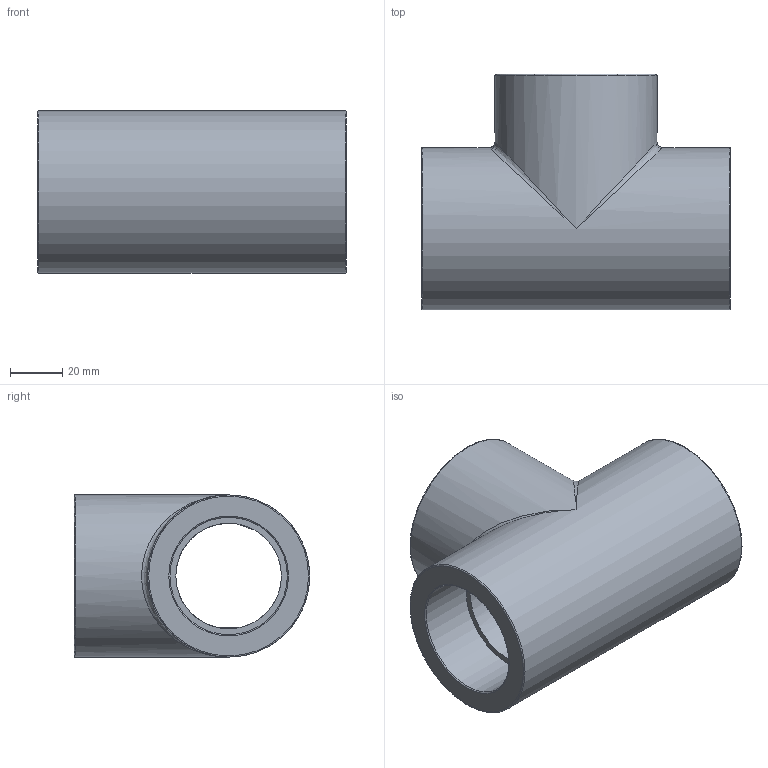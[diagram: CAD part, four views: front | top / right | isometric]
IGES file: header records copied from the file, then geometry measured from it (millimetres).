
Global section: file name: 050401015.ipt; native system: Autodesk Inventor 2015; preprocessor: unknown; author: KIM; date: 20171207.164513; units: millimetre
Bounding box: 118 x 90 x 62 mm (x, y, z)
Volume: 230635 mm3; surface area: 51882.8 mm2
Topology: 1 solids, 1 shells, 20 faces, 59 edges, 40 vertices
Faces by surface type: revolution 10, plane 6, bspline 2, cylinder 2
Full cylindrical faces by diameter (mm): 62 x2
